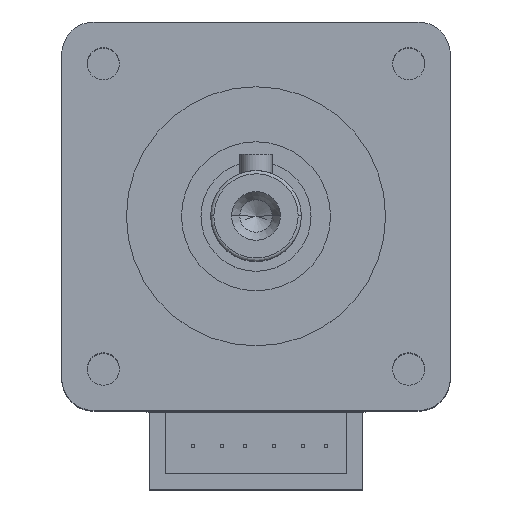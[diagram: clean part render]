
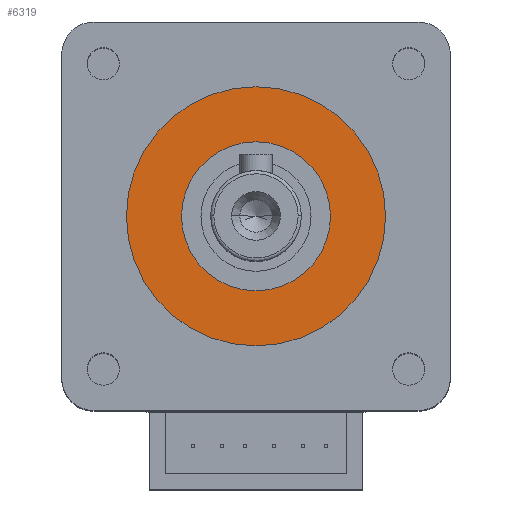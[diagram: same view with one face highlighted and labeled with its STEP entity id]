
A CAD part, top view. The second image highlights one B-rep face of the part: STEP entity #6319.
In plain terms, the highlighted planar face has unit normal (0, 0, 1).
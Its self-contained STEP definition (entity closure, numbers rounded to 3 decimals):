
#8 = DIRECTION ( 'NONE',  ( 0., 0., -1. ) ) ;
#27 = DIRECTION ( 'NONE',  ( 0., 0., -1. ) ) ;
#335 = AXIS2_PLACEMENT_3D ( 'NONE', #6596, #27, #6621 ) ;
#397 = EDGE_LOOP ( 'NONE', ( #2870, #4448 ) ) ;
#662 = VERTEX_POINT ( 'NONE', #1992 ) ;
#793 = CARTESIAN_POINT ( 'NONE',  ( 11.5, 0., 2.5 ) ) ;
#960 = CARTESIAN_POINT ( 'NONE',  ( -11.5, 0., 2.5 ) ) ;
#1242 = FACE_OUTER_BOUND ( 'NONE', #397, .T. ) ;
#1365 = DIRECTION ( 'NONE',  ( 0., 0., 1. ) ) ;
#1424 = VERTEX_POINT ( 'NONE', #2151 ) ;
#1569 = CARTESIAN_POINT ( 'NONE',  ( 0., 0., 2.5 ) ) ;
#1682 = VERTEX_POINT ( 'NONE', #793 ) ;
#1741 = EDGE_CURVE ( 'NONE', #2024, #1682, #4302, .T. ) ;
#1745 = AXIS2_PLACEMENT_3D ( 'NONE', #4075, #3482, #3513 ) ;
#1918 = CIRCLE ( 'NONE', #1745, 11.5 ) ;
#1929 = AXIS2_PLACEMENT_3D ( 'NONE', #5423, #1365, #5515 ) ;
#1992 = CARTESIAN_POINT ( 'NONE',  ( -20., 0., 2.5 ) ) ;
#2024 = VERTEX_POINT ( 'NONE', #960 ) ;
#2151 = CARTESIAN_POINT ( 'NONE',  ( 20., 0., 2.5 ) ) ;
#2870 = ORIENTED_EDGE ( 'NONE', *, *, #5203, .F. ) ;
#3012 = DIRECTION ( 'NONE',  ( -1., 0., 0. ) ) ;
#3065 = PLANE ( 'NONE',  #6194 ) ;
#3076 = CIRCLE ( 'NONE', #5086, 20. ) ;
#3482 = DIRECTION ( 'NONE',  ( 0., 0., 1. ) ) ;
#3513 = DIRECTION ( 'NONE',  ( -1., 0., 0. ) ) ;
#3536 = DIRECTION ( 'NONE',  ( -1., 0., 0. ) ) ;
#4039 = DIRECTION ( 'NONE',  ( 0., 0., -1. ) ) ;
#4075 = CARTESIAN_POINT ( 'NONE',  ( 0., 0., 2.5 ) ) ;
#4302 = CIRCLE ( 'NONE', #1929, 11.5 ) ;
#4448 = ORIENTED_EDGE ( 'NONE', *, *, #6306, .F. ) ;
#4596 = EDGE_CURVE ( 'NONE', #1682, #2024, #1918, .T. ) ;
#5086 = AXIS2_PLACEMENT_3D ( 'NONE', #1569, #4039, #3536 ) ;
#5108 = ORIENTED_EDGE ( 'NONE', *, *, #4596, .F. ) ;
#5203 = EDGE_CURVE ( 'NONE', #662, #1424, #6561, .T. ) ;
#5423 = CARTESIAN_POINT ( 'NONE',  ( 0., 0., 2.5 ) ) ;
#5515 = DIRECTION ( 'NONE',  ( -1., 0., 0. ) ) ;
#5562 = CARTESIAN_POINT ( 'NONE',  ( 0., 0., 2.5 ) ) ;
#5613 = EDGE_LOOP ( 'NONE', ( #6559, #5108 ) ) ;
#6194 = AXIS2_PLACEMENT_3D ( 'NONE', #5562, #8, #3012 ) ;
#6306 = EDGE_CURVE ( 'NONE', #1424, #662, #3076, .T. ) ;
#6319 = ADVANCED_FACE ( 'NONE', ( #6447, #1242 ), #3065, .F. ) ;
#6447 = FACE_BOUND ( 'NONE', #5613, .T. ) ;
#6559 = ORIENTED_EDGE ( 'NONE', *, *, #1741, .F. ) ;
#6561 = CIRCLE ( 'NONE', #335, 20. ) ;
#6596 = CARTESIAN_POINT ( 'NONE',  ( 0., 0., 2.5 ) ) ;
#6621 = DIRECTION ( 'NONE',  ( -1., 0., 0. ) ) ;
